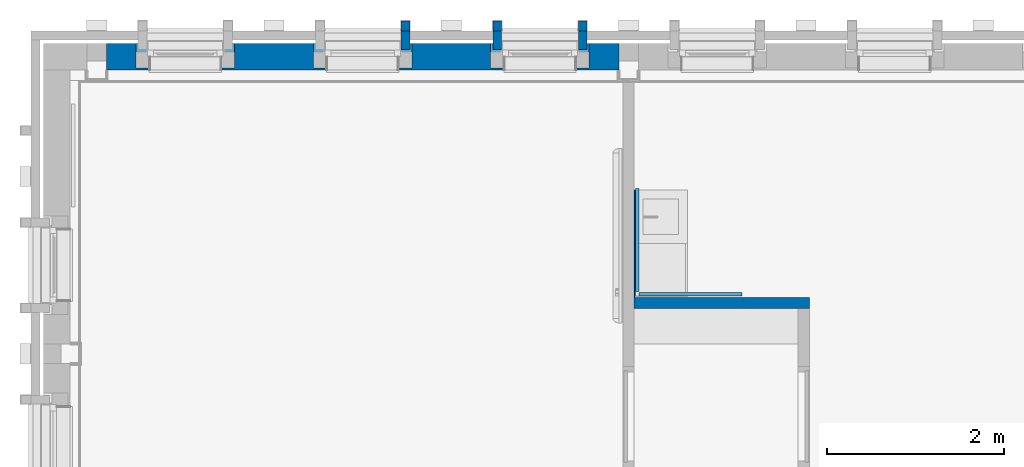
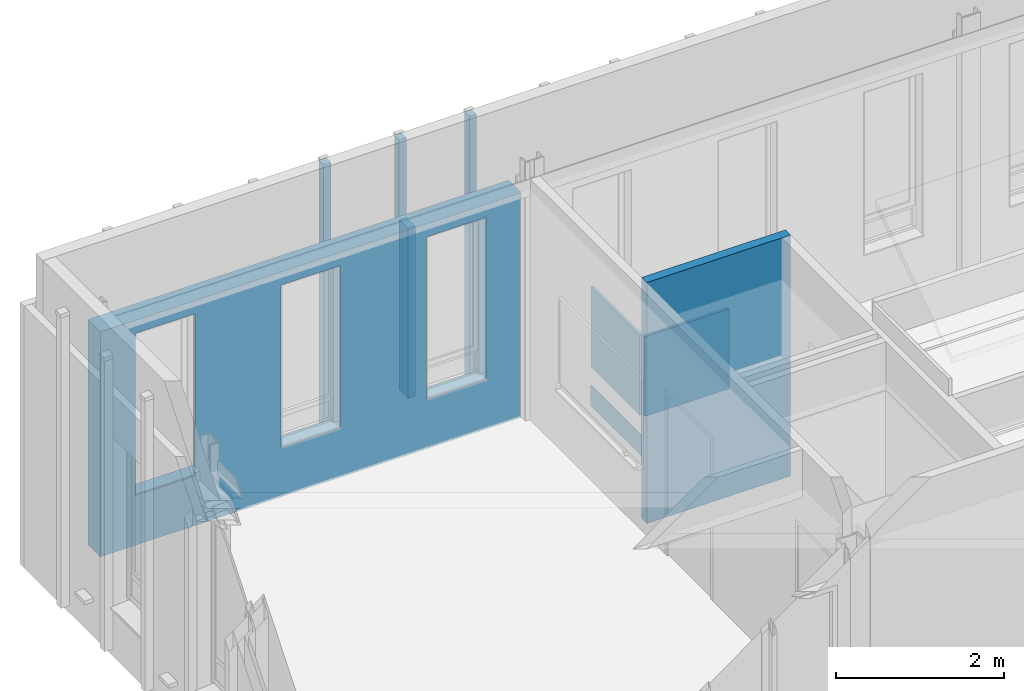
# One storey, part 57 of 118: 11 walls, 12 openings.
"""IFC2X3 building model written with IfcOpenShell, lengths in millimetres."""

from ifc_helpers import new_model, entity, si_unit, converted_unit, derived_unit, direction, frame, frame_2d, origin, place, context, subcontext, project, spatial, rectangle, extrude, faceted_brep, material, layer, layer_set, layer_usage, type_object, element, save


model = new_model("IFC2X3")

# Units and contexts
model_context = context("Model", 3, precision=0.01, world=origin(), true_north=direction((6.123031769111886e-17, 1.0)))
plan_context = context("Plan", 3, precision=0.01, world=origin(), true_north=direction((6.123031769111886e-17, 1.0)))
body_context = subcontext(model_context, "Body", "Model", "MODEL_VIEW")
ifc_project = project(units=[si_unit("LENGTHUNIT", "METRE", prefix="MILLI"), si_unit("AREAUNIT", "SQUARE_METRE"), si_unit("VOLUMEUNIT", "CUBIC_METRE"), converted_unit("PLANEANGLEUNIT", "DEGREE", entity("IfcRatioMeasure", 0.017453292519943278), si_unit("PLANEANGLEUNIT", "RADIAN"), dimensions=[0, 0, 0, 0, 0, 0, 0]), si_unit("MASSUNIT", "GRAM", prefix="KILO"), derived_unit("MASSDENSITYUNIT", [(si_unit("MASSUNIT", "GRAM", prefix="KILO"), 1), (si_unit("LENGTHUNIT", "METRE"), -3)]), derived_unit("IONCONCENTRATIONUNIT", [(si_unit("MASSUNIT", "GRAM", prefix="KILO"), 1), (si_unit("LENGTHUNIT", "METRE"), -3)]), derived_unit("MOMENTOFINERTIAUNIT", [(si_unit("LENGTHUNIT", "METRE"), 4)]), si_unit("TIMEUNIT", "SECOND"), si_unit("FREQUENCYUNIT", "HERTZ"), si_unit("THERMODYNAMICTEMPERATUREUNIT", "DEGREE_CELSIUS"), derived_unit("THERMALTRANSMITTANCEUNIT", [(si_unit("MASSUNIT", "GRAM", prefix="KILO"), 1), (si_unit("THERMODYNAMICTEMPERATUREUNIT", "KELVIN"), -1), (si_unit("TIMEUNIT", "SECOND"), -3)]), derived_unit("THERMALCONDUCTANCEUNIT", [(si_unit("MASSUNIT", "GRAM", prefix="KILO"), 1), (si_unit("THERMODYNAMICTEMPERATUREUNIT", "KELVIN"), -1), (si_unit("TIMEUNIT", "SECOND"), -3), (si_unit("LENGTHUNIT", "METRE"), 1)]), derived_unit("VOLUMETRICFLOWRATEUNIT", [(si_unit("LENGTHUNIT", "METRE"), 3), (si_unit("TIMEUNIT", "SECOND"), -1)]), derived_unit("MASSFLOWRATEUNIT", [(si_unit("MASSUNIT", "GRAM", prefix="KILO"), 1), (si_unit("TIMEUNIT", "SECOND"), -1)]), derived_unit("ROTATIONALFREQUENCYUNIT", [(si_unit("TIMEUNIT", "SECOND"), -1)]), si_unit("ELECTRICCURRENTUNIT", "AMPERE"), si_unit("ELECTRICVOLTAGEUNIT", "VOLT"), si_unit("POWERUNIT", "WATT"), si_unit("FORCEUNIT", "NEWTON", prefix="KILO"), si_unit("ILLUMINANCEUNIT", "LUX"), si_unit("LUMINOUSFLUXUNIT", "LUMEN"), si_unit("LUMINOUSINTENSITYUNIT", "CANDELA"), derived_unit("USERDEFINED", [(si_unit("MASSUNIT", "GRAM", prefix="KILO"), -1), (si_unit("LENGTHUNIT", "METRE"), -2), (si_unit("TIMEUNIT", "SECOND"), 3), (si_unit("LUMINOUSFLUXUNIT", "LUMEN"), 1)]), derived_unit("USERDEFINED", [(si_unit("MASSUNIT", "GRAM", prefix="KILO"), 1), (si_unit("TIMEUNIT", "SECOND"), -3), (si_unit("LENGTHUNIT", "METRE"), 3), (si_unit("ELECTRICCURRENTUNIT", "AMPERE"), -2)]), derived_unit("SOUNDPOWERUNIT", [(si_unit("MASSUNIT", "GRAM", prefix="KILO"), 1), (si_unit("TIMEUNIT", "SECOND"), -3), (si_unit("LENGTHUNIT", "METRE"), 2)]), derived_unit("SOUNDPRESSUREUNIT", [(si_unit("MASSUNIT", "GRAM", prefix="KILO"), 1), (si_unit("LENGTHUNIT", "METRE"), -1), (si_unit("TIMEUNIT", "SECOND"), -2)]), derived_unit("LINEARVELOCITYUNIT", [(si_unit("LENGTHUNIT", "METRE"), 1), (si_unit("TIMEUNIT", "SECOND"), -1)]), si_unit("PRESSUREUNIT", "PASCAL"), derived_unit("USERDEFINED", [(si_unit("MASSUNIT", "GRAM", prefix="KILO"), 1), (si_unit("LENGTHUNIT", "METRE"), -2), (si_unit("TIMEUNIT", "SECOND"), -2)]), derived_unit("LINEARFORCEUNIT", [(si_unit("MASSUNIT", "GRAM", prefix="KILO"), 1), (si_unit("TIMEUNIT", "SECOND"), -2)]), derived_unit("PLANARFORCEUNIT", [(si_unit("MASSUNIT", "GRAM", prefix="KILO"), 1), (si_unit("LENGTHUNIT", "METRE"), -1), (si_unit("TIMEUNIT", "SECOND"), -2)]), derived_unit("SPECIFICHEATCAPACITYUNIT", [(si_unit("THERMODYNAMICTEMPERATUREUNIT", "KELVIN"), -1), (si_unit("LENGTHUNIT", "METRE"), 2), (si_unit("TIMEUNIT", "SECOND"), -2)]), derived_unit("HEATINGVALUEUNIT", [(si_unit("LENGTHUNIT", "METRE"), 2), (si_unit("TIMEUNIT", "SECOND"), -2)]), derived_unit("VAPORPERMEABILITYUNIT", [(si_unit("LENGTHUNIT", "METRE"), -1), (si_unit("TIMEUNIT", "SECOND"), 1)]), derived_unit("DYNAMICVISCOSITYUNIT", [(si_unit("MASSUNIT", "GRAM", prefix="KILO"), 1), (si_unit("TIMEUNIT", "SECOND"), -1), (si_unit("LENGTHUNIT", "METRE"), -1)]), derived_unit("THERMALEXPANSIONCOEFFICIENTUNIT", [(si_unit("THERMODYNAMICTEMPERATUREUNIT", "KELVIN"), -1)]), derived_unit("MODULUSOFELASTICITYUNIT", [(si_unit("MASSUNIT", "GRAM", prefix="KILO"), 1), (si_unit("LENGTHUNIT", "METRE"), -1), (si_unit("TIMEUNIT", "SECOND"), -2)]), derived_unit("ISOTHERMALMOISTURECAPACITYUNIT", [(si_unit("LENGTHUNIT", "METRE"), 3), (si_unit("MASSUNIT", "GRAM", prefix="KILO"), -1)]), derived_unit("MOISTUREDIFFUSIVITYUNIT", [(si_unit("TIMEUNIT", "SECOND"), -1), (si_unit("LENGTHUNIT", "METRE"), 2)])], contexts=[model_context, plan_context])

# Site, building, storey
site_placement = place(None, origin())
site = spatial("IfcSite", under=ifc_project, at=site_placement, Name="Locatie", CompositionType="ELEMENT")
building_placement = place(site_placement, origin())
building = spatial("IfcBuilding", under=site, at=building_placement, Name="Bouwwerk", CompositionType="ELEMENT")
storey_placement = place(building_placement, frame((0.0, 0.0, 7800.0)))
storey = spatial("IfcBuildingStorey", under=building, at=storey_placement, Name="02 tweede verdieping", CompositionType="ELEMENT", Elevation=7800.000000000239)

# Wall, openings
ifc_material_1 = material(Name="n7_isolatie_glaswol")
ifc_layer_1 = layer(ifc_material_1, 30.0)
ifc_layer_2 = layer(ifc_material_1, 245.0)
ifc_material_2 = material(Name="i4_multiplex")
ifc_layer_3 = layer(ifc_material_2, 12.0)
ifc_material_3 = material(Name="f7_gipsvezel")
ifc_layer_4 = layer(ifc_material_3, 13.000000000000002)
ifc_layer_set_1 = layer_set([ifc_layer_1, ifc_layer_2, ifc_layer_3, ifc_layer_4], Name="Basic Wall:NLRS_22_WA_HSB bispouw 30-245-12-13 glaswol_gen_ISR")
ifc_layer_usage_1 = layer_usage(ifc_layer_set_1, "AXIS2", "NEGATIVE", 150.0)
wall_type_1 = type_object("IfcWallType", Name="Basic Wall:NLRS_22_WA_HSB bispouw 30-245-12-13 glaswol_gen_ISR", PredefinedType="STANDARD", material=ifc_layer_set_1)
wall_1_placement = place(storey_placement, frame((10410.0, 34550.0, -30.0)))
wall_1 = element("IfcWallStandardCase", 1, at=wall_1_placement, inside=storey, type_object=wall_type_1, material=ifc_layer_usage_1, Name="Basic Wall:NLRS_22_WA_HSB bispouw 30-245-12-13 glaswol_gen_ISR", ObjectType="Basic Wall:NLRS_22_WA_HSB bispouw 30-245-12-13 glaswol_gen_ISR", context=body_context, shape_type="SweptSolid", body=[
    extrude(rectangle(XDim=5779.9999999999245, YDim=300.0000000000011, at=frame_2d((2889.9999999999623, 0.0), x_axis=(-1.0, 0.0))), origin(), (0.0, 0.0, 1.0), 3266.0000000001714),
])
opening_1_placement = place(wall_1_placement, frame((10334.0, -325.0, 633.0)))
element("IfcOpeningElement", 2, at=opening_1_placement, cuts=wall_1, Name="Basic Wall:NLRS_22_WA_HSB bispouw 30-245-12-13 glaswol_gen_ISR", ObjectType="Opening", context=body_context, shape_type="Brep", body=[
    faceted_brep([(1088.0, 515.0, 2472.0), (1009.0, 515.0, 2472.0), (1009.0, 515.0, 42.0), (103.0, 515.0, 42.0), (103.0, 515.0, 2472.0), (24.0, 515.0, 2472.0), (24.0, 515.0, 0.0), (1088.0, 515.0, 0.0), (24.0, 615.0, 2472.0), (1088.0, 615.0, 2472.0), (1088.0, 615.0, 0.0), (24.0, 615.0, 0.0), (0.0, 200.0, 2594.0), (0.0, 200.0, 11.0), (1112.0, 200.0, 11.0), (1112.0, 200.0, 2594.0), (148.0, 200.0, 2443.0), (964.0, 200.0, 2443.0), (964.0, 200.0, 87.0), (148.0, 200.0, 87.0), (0.0, 475.0, 2594.0), (1112.0, 475.0, 2594.0), (1112.0, 475.0, 11.0), (0.0, 475.0, 11.0), (103.0, 475.0, 42.0), (1009.0, 475.0, 42.0), (1009.0, 475.0, 2508.0), (103.0, 475.0, 2508.0), (1009.0, 515.0, 2508.0), (103.0, 515.0, 2508.0), (148.0, 0.0, 2443.0), (148.0, 0.0, 87.0), (964.0, 0.0, 87.0), (964.0, 0.0, 2443.0)], [[[0, 1, 2, 3, 4, 5, 6, 7]], [[8, 9, 10, 11]], [[5, 8, 11, 6]], [[6, 11, 10, 7]], [[7, 10, 9, 0]], [[8, 5, 4, 1, 0, 9]], [[12, 13, 14, 15], [16, 17, 18, 19]], [[20, 21, 22, 23], [24, 25, 26, 27]], [[12, 20, 23, 13]], [[13, 23, 22, 14]], [[14, 22, 21, 15]], [[15, 21, 20, 12]], [[28, 1, 4, 29]], [[24, 27, 29, 4, 3]], [[3, 2, 25, 24]], [[2, 1, 28, 26, 25]], [[29, 27, 26, 28]], [[30, 31, 32, 33]], [[30, 16, 19, 31]], [[31, 19, 18, 32]], [[32, 18, 17, 33]], [[33, 17, 16, 30]]]),
])
opening_2_placement = place(wall_1_placement, frame((8334.0, -325.0, 633.0)))
element("IfcOpeningElement", 3, at=opening_2_placement, cuts=wall_1, Name="Basic Wall:NLRS_22_WA_HSB bispouw 30-245-12-13 glaswol_gen_ISR", ObjectType="Opening", context=body_context, shape_type="Brep", body=[
    faceted_brep([(1088.0, 515.0, 2472.0), (1009.0, 515.0, 2472.0), (1009.0, 515.0, 42.0), (103.0, 515.0, 42.0), (103.0, 515.0, 2472.0), (24.0, 515.0, 2472.0), (24.0, 515.0, 0.0), (1088.0, 515.0, 0.0), (24.0, 615.0, 2472.0), (1088.0, 615.0, 2472.0), (1088.0, 615.0, 0.0), (24.0, 615.0, 0.0), (0.0, 200.0, 2594.0), (0.0, 200.0, 11.0), (1112.0, 200.0, 11.0), (1112.0, 200.0, 2594.0), (148.0, 200.0, 2443.0), (964.0, 200.0, 2443.0), (964.0, 200.0, 87.0), (148.0, 200.0, 87.0), (0.0, 475.0, 2594.0), (1112.0, 475.0, 2594.0), (1112.0, 475.0, 11.0), (0.0, 475.0, 11.0), (103.0, 475.0, 42.0), (1009.0, 475.0, 42.0), (1009.0, 475.0, 2508.0), (103.0, 475.0, 2508.0), (1009.0, 515.0, 2508.0), (103.0, 515.0, 2508.0), (148.0, 0.0, 2443.0), (148.0, 0.0, 87.0), (964.0, 0.0, 87.0), (964.0, 0.0, 2443.0)], [[[0, 1, 2, 3, 4, 5, 6, 7]], [[8, 9, 10, 11]], [[5, 8, 11, 6]], [[6, 11, 10, 7]], [[7, 10, 9, 0]], [[8, 5, 4, 1, 0, 9]], [[12, 13, 14, 15], [16, 17, 18, 19]], [[20, 21, 22, 23], [24, 25, 26, 27]], [[12, 20, 23, 13]], [[13, 23, 22, 14]], [[14, 22, 21, 15]], [[15, 21, 20, 12]], [[28, 1, 4, 29]], [[24, 27, 29, 4, 3]], [[3, 2, 25, 24]], [[2, 1, 28, 26, 25]], [[29, 27, 26, 28]], [[30, 31, 32, 33]], [[30, 16, 19, 31]], [[31, 19, 18, 32]], [[32, 18, 17, 33]], [[33, 17, 16, 30]]]),
])
opening_3_placement = place(wall_1_placement, frame((6334.0, -325.0, 633.0)))
element("IfcOpeningElement", 4, at=opening_3_placement, cuts=wall_1, Name="Basic Wall:NLRS_22_WA_HSB bispouw 30-245-12-13 glaswol_gen_ISR", ObjectType="Opening", context=body_context, shape_type="Brep", body=[
    faceted_brep([(1088.0, 515.0, 2472.0), (1009.0, 515.0, 2472.0), (1009.0, 515.0, 42.0), (103.0, 515.0, 42.0), (103.0, 515.0, 2472.0), (24.0, 515.0, 2472.0), (24.0, 515.0, 0.0), (1088.0, 515.0, 0.0), (24.0, 615.0, 2472.0), (1088.0, 615.0, 2472.0), (1088.0, 615.0, 0.0), (24.0, 615.0, 0.0), (0.0, 200.0, 2594.0), (0.0, 200.0, 11.0), (1112.0, 200.0, 11.0), (1112.0, 200.0, 2594.0), (148.0, 200.0, 2443.0), (964.0, 200.0, 2443.0), (964.0, 200.0, 87.0), (148.0, 200.0, 87.0), (0.0, 475.0, 2594.0), (1112.0, 475.0, 2594.0), (1112.0, 475.0, 11.0), (0.0, 475.0, 11.0), (103.0, 475.0, 42.0), (1009.0, 475.0, 42.0), (1009.0, 475.0, 2508.0), (103.0, 475.0, 2508.0), (1009.0, 515.0, 2508.0), (103.0, 515.0, 2508.0), (148.0, 0.0, 2443.0), (148.0, 0.0, 87.0), (964.0, 0.0, 87.0), (964.0, 0.0, 2443.0)], [[[0, 1, 2, 3, 4, 5, 6, 7]], [[8, 9, 10, 11]], [[5, 8, 11, 6]], [[6, 11, 10, 7]], [[7, 10, 9, 0]], [[8, 5, 4, 1, 0, 9]], [[12, 13, 14, 15], [16, 17, 18, 19]], [[20, 21, 22, 23], [24, 25, 26, 27]], [[12, 20, 23, 13]], [[13, 23, 22, 14]], [[14, 22, 21, 15]], [[15, 21, 20, 12]], [[28, 1, 4, 29]], [[24, 27, 29, 4, 3]], [[3, 2, 25, 24]], [[2, 1, 28, 26, 25]], [[29, 27, 26, 28]], [[30, 31, 32, 33]], [[30, 16, 19, 31]], [[31, 19, 18, 32]], [[32, 18, 17, 33]], [[33, 17, 16, 30]]]),
])
opening_4_placement = place(wall_1_placement, frame((12334.0, -325.0, 633.0)))
element("IfcOpeningElement", 5, at=opening_4_placement, cuts=wall_1, Name="Basic Wall:NLRS_22_WA_HSB bispouw 30-245-12-13 glaswol_gen_ISR", ObjectType="Opening", context=body_context, shape_type="Brep", body=[
    faceted_brep([(1088.0, 515.0, 2472.0), (1009.0, 515.0, 2472.0), (1009.0, 515.0, 42.0), (103.0, 515.0, 42.0), (103.0, 515.0, 2472.0), (24.0, 515.0, 2472.0), (24.0, 515.0, 0.0), (1088.0, 515.0, 0.0), (24.0, 615.0, 2472.0), (1088.0, 615.0, 2472.0), (1088.0, 615.0, 0.0), (24.0, 615.0, 0.0), (0.0, 200.0, 2594.0), (0.0, 200.0, 11.0), (1112.0, 200.0, 11.0), (1112.0, 200.0, 2594.0), (148.0, 200.0, 2443.0), (964.0, 200.0, 2443.0), (964.0, 200.0, 87.0), (148.0, 200.0, 87.0), (0.0, 475.0, 2594.0), (1112.0, 475.0, 2594.0), (1112.0, 475.0, 11.0), (0.0, 475.0, 11.0), (103.0, 475.0, 42.0), (1009.0, 475.0, 42.0), (1009.0, 475.0, 2508.0), (103.0, 475.0, 2508.0), (1009.0, 515.0, 2508.0), (103.0, 515.0, 2508.0), (148.0, 0.0, 2443.0), (148.0, 0.0, 87.0), (964.0, 0.0, 87.0), (964.0, 0.0, 2443.0)], [[[0, 1, 2, 3, 4, 5, 6, 7]], [[8, 9, 10, 11]], [[5, 8, 11, 6]], [[6, 11, 10, 7]], [[7, 10, 9, 0]], [[8, 5, 4, 1, 0, 9]], [[12, 13, 14, 15], [16, 17, 18, 19]], [[20, 21, 22, 23], [24, 25, 26, 27]], [[12, 20, 23, 13]], [[13, 23, 22, 14]], [[14, 22, 21, 15]], [[15, 21, 20, 12]], [[28, 1, 4, 29]], [[24, 27, 29, 4, 3]], [[3, 2, 25, 24]], [[2, 1, 28, 26, 25]], [[29, 27, 26, 28]], [[30, 31, 32, 33]], [[30, 16, 19, 31]], [[31, 19, 18, 32]], [[32, 18, 17, 33]], [[33, 17, 16, 30]]]),
])
opening_5_placement = place(wall_1_placement, frame((16334.0, -325.0, 633.0)))
element("IfcOpeningElement", 6, at=opening_5_placement, cuts=wall_1, Name="Basic Wall:NLRS_22_WA_HSB bispouw 30-245-12-13 glaswol_gen_ISR", ObjectType="Opening", context=body_context, shape_type="Brep", body=[
    faceted_brep([(1088.0, 515.0, 2472.0), (1009.0, 515.0, 2472.0), (1009.0, 515.0, 42.0), (103.0, 515.0, 42.0), (103.0, 515.0, 2472.0), (24.0, 515.0, 2472.0), (24.0, 515.0, 0.0), (1088.0, 515.0, 0.0), (24.0, 615.0, 2472.0), (1088.0, 615.0, 2472.0), (1088.0, 615.0, 0.0), (24.0, 615.0, 0.0), (0.0, 200.0, 2594.0), (0.0, 200.0, 11.0), (1112.0, 200.0, 11.0), (1112.0, 200.0, 2594.0), (148.0, 200.0, 2443.0), (964.0, 200.0, 2443.0), (964.0, 200.0, 87.0), (148.0, 200.0, 87.0), (0.0, 475.0, 2594.0), (1112.0, 475.0, 2594.0), (1112.0, 475.0, 11.0), (0.0, 475.0, 11.0), (103.0, 475.0, 42.0), (1009.0, 475.0, 42.0), (1009.0, 475.0, 2508.0), (103.0, 475.0, 2508.0), (1009.0, 515.0, 2508.0), (103.0, 515.0, 2508.0), (148.0, 0.0, 2443.0), (148.0, 0.0, 87.0), (964.0, 0.0, 87.0), (964.0, 0.0, 2443.0)], [[[0, 1, 2, 3, 4, 5, 6, 7]], [[8, 9, 10, 11]], [[5, 8, 11, 6]], [[6, 11, 10, 7]], [[7, 10, 9, 0]], [[8, 5, 4, 1, 0, 9]], [[12, 13, 14, 15], [16, 17, 18, 19]], [[20, 21, 22, 23], [24, 25, 26, 27]], [[12, 20, 23, 13]], [[13, 23, 22, 14]], [[14, 22, 21, 15]], [[15, 21, 20, 12]], [[28, 1, 4, 29]], [[24, 27, 29, 4, 3]], [[3, 2, 25, 24]], [[2, 1, 28, 26, 25]], [[29, 27, 26, 28]], [[30, 31, 32, 33]], [[30, 16, 19, 31]], [[31, 19, 18, 32]], [[32, 18, 17, 33]], [[33, 17, 16, 30]]]),
])
opening_6_placement = place(wall_1_placement, frame((14334.0, -325.0, 633.0)))
element("IfcOpeningElement", 7, at=opening_6_placement, cuts=wall_1, Name="Basic Wall:NLRS_22_WA_HSB bispouw 30-245-12-13 glaswol_gen_ISR", ObjectType="Opening", context=body_context, shape_type="Brep", body=[
    faceted_brep([(1088.0, 515.0, 2472.0), (1009.0, 515.0, 2472.0), (1009.0, 515.0, 42.0), (103.0, 515.0, 42.0), (103.0, 515.0, 2472.0), (24.0, 515.0, 2472.0), (24.0, 515.0, 0.0), (1088.0, 515.0, 0.0), (24.0, 615.0, 2472.0), (1088.0, 615.0, 2472.0), (1088.0, 615.0, 0.0), (24.0, 615.0, 0.0), (0.0, 200.0, 2594.0), (0.0, 200.0, 11.0), (1112.0, 200.0, 11.0), (1112.0, 200.0, 2594.0), (148.0, 200.0, 2443.0), (964.0, 200.0, 2443.0), (964.0, 200.0, 87.0), (148.0, 200.0, 87.0), (0.0, 475.0, 2594.0), (1112.0, 475.0, 2594.0), (1112.0, 475.0, 11.0), (0.0, 475.0, 11.0), (103.0, 475.0, 42.0), (1009.0, 475.0, 42.0), (1009.0, 475.0, 2508.0), (103.0, 475.0, 2508.0), (1009.0, 515.0, 2508.0), (103.0, 515.0, 2508.0), (148.0, 0.0, 2443.0), (148.0, 0.0, 87.0), (964.0, 0.0, 87.0), (964.0, 0.0, 2443.0)], [[[0, 1, 2, 3, 4, 5, 6, 7]], [[8, 9, 10, 11]], [[5, 8, 11, 6]], [[6, 11, 10, 7]], [[7, 10, 9, 0]], [[8, 5, 4, 1, 0, 9]], [[12, 13, 14, 15], [16, 17, 18, 19]], [[20, 21, 22, 23], [24, 25, 26, 27]], [[12, 20, 23, 13]], [[13, 23, 22, 14]], [[14, 22, 21, 15]], [[15, 21, 20, 12]], [[28, 1, 4, 29]], [[24, 27, 29, 4, 3]], [[3, 2, 25, 24]], [[2, 1, 28, 26, 25]], [[29, 27, 26, 28]], [[30, 31, 32, 33]], [[30, 16, 19, 31]], [[31, 19, 18, 32]], [[32, 18, 17, 33]], [[33, 17, 16, 30]]]),
])
opening_7_placement = place(wall_1_placement, frame((22334.0, -325.0, 633.0)))
element("IfcOpeningElement", 8, at=opening_7_placement, cuts=wall_1, Name="Basic Wall:NLRS_22_WA_HSB bispouw 30-245-12-13 glaswol_gen_ISR", ObjectType="Opening", context=body_context, shape_type="Brep", body=[
    faceted_brep([(1088.0, 515.0, 2472.0), (1009.0, 515.0, 2472.0), (1009.0, 515.0, 42.0), (103.0, 515.0, 42.0), (103.0, 515.0, 2472.0), (24.0, 515.0, 2472.0), (24.0, 515.0, 0.0), (1088.0, 515.0, 0.0), (24.0, 615.0, 2472.0), (1088.0, 615.0, 2472.0), (1088.0, 615.0, 0.0), (24.0, 615.0, 0.0), (0.0, 200.0, 2594.0), (0.0, 200.0, 11.0), (1112.0, 200.0, 11.0), (1112.0, 200.0, 2594.0), (148.0, 200.0, 2443.0), (964.0, 200.0, 2443.0), (964.0, 200.0, 87.0), (148.0, 200.0, 87.0), (0.0, 475.0, 2594.0), (1112.0, 475.0, 2594.0), (1112.0, 475.0, 11.0), (0.0, 475.0, 11.0), (103.0, 475.0, 42.0), (1009.0, 475.0, 42.0), (1009.0, 475.0, 2508.0), (103.0, 475.0, 2508.0), (1009.0, 515.0, 2508.0), (103.0, 515.0, 2508.0), (148.0, 0.0, 2443.0), (148.0, 0.0, 87.0), (964.0, 0.0, 87.0), (964.0, 0.0, 2443.0)], [[[0, 1, 2, 3, 4, 5, 6, 7]], [[8, 9, 10, 11]], [[5, 8, 11, 6]], [[6, 11, 10, 7]], [[7, 10, 9, 0]], [[8, 5, 4, 1, 0, 9]], [[12, 13, 14, 15], [16, 17, 18, 19]], [[20, 21, 22, 23], [24, 25, 26, 27]], [[12, 20, 23, 13]], [[13, 23, 22, 14]], [[14, 22, 21, 15]], [[15, 21, 20, 12]], [[28, 1, 4, 29]], [[24, 27, 29, 4, 3]], [[3, 2, 25, 24]], [[2, 1, 28, 26, 25]], [[29, 27, 26, 28]], [[30, 31, 32, 33]], [[30, 16, 19, 31]], [[31, 19, 18, 32]], [[32, 18, 17, 33]], [[33, 17, 16, 30]]]),
])
opening_8_placement = place(wall_1_placement, frame((20334.0, -325.0, 633.0)))
element("IfcOpeningElement", 9, at=opening_8_placement, cuts=wall_1, Name="Basic Wall:NLRS_22_WA_HSB bispouw 30-245-12-13 glaswol_gen_ISR", ObjectType="Opening", context=body_context, shape_type="Brep", body=[
    faceted_brep([(1088.0, 515.0, 2472.0), (1009.0, 515.0, 2472.0), (1009.0, 515.0, 42.0), (103.0, 515.0, 42.0), (103.0, 515.0, 2472.0), (24.0, 515.0, 2472.0), (24.0, 515.0, 0.0), (1088.0, 515.0, 0.0), (24.0, 615.0, 2472.0), (1088.0, 615.0, 2472.0), (1088.0, 615.0, 0.0), (24.0, 615.0, 0.0), (0.0, 200.0, 2594.0), (0.0, 200.0, 11.0), (1112.0, 200.0, 11.0), (1112.0, 200.0, 2594.0), (148.0, 200.0, 2443.0), (964.0, 200.0, 2443.0), (964.0, 200.0, 87.0), (148.0, 200.0, 87.0), (0.0, 475.0, 2594.0), (1112.0, 475.0, 2594.0), (1112.0, 475.0, 11.0), (0.0, 475.0, 11.0), (103.0, 475.0, 42.0), (1009.0, 475.0, 42.0), (1009.0, 475.0, 2508.0), (103.0, 475.0, 2508.0), (1009.0, 515.0, 2508.0), (103.0, 515.0, 2508.0), (148.0, 0.0, 2443.0), (148.0, 0.0, 87.0), (964.0, 0.0, 87.0), (964.0, 0.0, 2443.0)], [[[0, 1, 2, 3, 4, 5, 6, 7]], [[8, 9, 10, 11]], [[5, 8, 11, 6]], [[6, 11, 10, 7]], [[7, 10, 9, 0]], [[8, 5, 4, 1, 0, 9]], [[12, 13, 14, 15], [16, 17, 18, 19]], [[20, 21, 22, 23], [24, 25, 26, 27]], [[12, 20, 23, 13]], [[13, 23, 22, 14]], [[14, 22, 21, 15]], [[15, 21, 20, 12]], [[28, 1, 4, 29]], [[24, 27, 29, 4, 3]], [[3, 2, 25, 24]], [[2, 1, 28, 26, 25]], [[29, 27, 26, 28]], [[30, 31, 32, 33]], [[30, 16, 19, 31]], [[31, 19, 18, 32]], [[32, 18, 17, 33]], [[33, 17, 16, 30]]]),
])
opening_9_placement = place(wall_1_placement, frame((18334.0, -325.0, 633.0)))
element("IfcOpeningElement", 10, at=opening_9_placement, cuts=wall_1, Name="Basic Wall:NLRS_22_WA_HSB bispouw 30-245-12-13 glaswol_gen_ISR", ObjectType="Opening", context=body_context, shape_type="Brep", body=[
    faceted_brep([(1088.0, 515.0, 2472.0), (1009.0, 515.0, 2472.0), (1009.0, 515.0, 42.0), (103.0, 515.0, 42.0), (103.0, 515.0, 2472.0), (24.0, 515.0, 2472.0), (24.0, 515.0, 0.0), (1088.0, 515.0, 0.0), (24.0, 615.0, 2472.0), (1088.0, 615.0, 2472.0), (1088.0, 615.0, 0.0), (24.0, 615.0, 0.0), (0.0, 200.0, 2594.0), (0.0, 200.0, 11.0), (1112.0, 200.0, 11.0), (1112.0, 200.0, 2594.0), (148.0, 200.0, 2443.0), (964.0, 200.0, 2443.0), (964.0, 200.0, 87.0), (148.0, 200.0, 87.0), (0.0, 475.0, 2594.0), (1112.0, 475.0, 2594.0), (1112.0, 475.0, 11.0), (0.0, 475.0, 11.0), (103.0, 475.0, 42.0), (1009.0, 475.0, 42.0), (1009.0, 475.0, 2508.0), (103.0, 475.0, 2508.0), (1009.0, 515.0, 2508.0), (103.0, 515.0, 2508.0), (148.0, 0.0, 2443.0), (148.0, 0.0, 87.0), (964.0, 0.0, 87.0), (964.0, 0.0, 2443.0)], [[[0, 1, 2, 3, 4, 5, 6, 7]], [[8, 9, 10, 11]], [[5, 8, 11, 6]], [[6, 11, 10, 7]], [[7, 10, 9, 0]], [[8, 5, 4, 1, 0, 9]], [[12, 13, 14, 15], [16, 17, 18, 19]], [[20, 21, 22, 23], [24, 25, 26, 27]], [[12, 20, 23, 13]], [[13, 23, 22, 14]], [[14, 22, 21, 15]], [[15, 21, 20, 12]], [[28, 1, 4, 29]], [[24, 27, 29, 4, 3]], [[3, 2, 25, 24]], [[2, 1, 28, 26, 25]], [[29, 27, 26, 28]], [[30, 31, 32, 33]], [[30, 16, 19, 31]], [[31, 19, 18, 32]], [[32, 18, 17, 33]], [[33, 17, 16, 30]]]),
])
opening_10_placement = place(wall_1_placement, frame((4334.0, -325.0, 633.0)))
element("IfcOpeningElement", 11, at=opening_10_placement, cuts=wall_1, Name="Basic Wall:NLRS_22_WA_HSB bispouw 30-245-12-13 glaswol_gen_ISR", ObjectType="Opening", context=body_context, shape_type="Brep", body=[
    faceted_brep([(1088.0, 515.0, 2472.0), (1009.0, 515.0, 2472.0), (1009.0, 515.0, 42.0), (103.0, 515.0, 42.0), (103.0, 515.0, 2472.0), (24.0, 515.0, 2472.0), (24.0, 515.0, 0.0), (1088.0, 515.0, 0.0), (24.0, 615.0, 2472.0), (1088.0, 615.0, 2472.0), (1088.0, 615.0, 0.0), (24.0, 615.0, 0.0), (0.0, 200.0, 2594.0), (0.0, 200.0, 11.0), (1112.0, 200.0, 11.0), (1112.0, 200.0, 2594.0), (148.0, 200.0, 2443.0), (964.0, 200.0, 2443.0), (964.0, 200.0, 87.0), (148.0, 200.0, 87.0), (0.0, 475.0, 2594.0), (1112.0, 475.0, 2594.0), (1112.0, 475.0, 11.0), (0.0, 475.0, 11.0), (103.0, 475.0, 42.0), (1009.0, 475.0, 42.0), (1009.0, 475.0, 2508.0), (103.0, 475.0, 2508.0), (1009.0, 515.0, 2508.0), (103.0, 515.0, 2508.0), (148.0, 0.0, 2443.0), (148.0, 0.0, 87.0), (964.0, 0.0, 87.0), (964.0, 0.0, 2443.0)], [[[0, 1, 2, 3, 4, 5, 6, 7]], [[8, 9, 10, 11]], [[5, 8, 11, 6]], [[6, 11, 10, 7]], [[7, 10, 9, 0]], [[8, 5, 4, 1, 0, 9]], [[12, 13, 14, 15], [16, 17, 18, 19]], [[20, 21, 22, 23], [24, 25, 26, 27]], [[12, 20, 23, 13]], [[13, 23, 22, 14]], [[14, 22, 21, 15]], [[15, 21, 20, 12]], [[28, 1, 4, 29]], [[24, 27, 29, 4, 3]], [[3, 2, 25, 24]], [[2, 1, 28, 26, 25]], [[29, 27, 26, 28]], [[30, 31, 32, 33]], [[30, 16, 19, 31]], [[31, 19, 18, 32]], [[32, 18, 17, 33]], [[33, 17, 16, 30]]]),
])
opening_11_placement = place(wall_1_placement, frame((2334.0, -325.0, 633.0)))
element("IfcOpeningElement", 12, at=opening_11_placement, cuts=wall_1, Name="Basic Wall:NLRS_22_WA_HSB bispouw 30-245-12-13 glaswol_gen_ISR", ObjectType="Opening", context=body_context, shape_type="Brep", body=[
    faceted_brep([(1088.0, 515.0, 2472.0), (1009.0, 515.0, 2472.0), (1009.0, 515.0, 42.0), (103.0, 515.0, 42.0), (103.0, 515.0, 2472.0), (24.0, 515.0, 2472.0), (24.0, 515.0, 0.0), (1088.0, 515.0, 0.0), (24.0, 615.0, 2472.0), (1088.0, 615.0, 2472.0), (1088.0, 615.0, 0.0), (24.0, 615.0, 0.0), (0.0, 200.0, 2594.0), (0.0, 200.0, 11.0), (1112.0, 200.0, 11.0), (1112.0, 200.0, 2594.0), (148.0, 200.0, 2443.0), (964.0, 200.0, 2443.0), (964.0, 200.0, 87.0), (148.0, 200.0, 87.0), (0.0, 475.0, 2594.0), (1112.0, 475.0, 2594.0), (1112.0, 475.0, 11.0), (0.0, 475.0, 11.0), (103.0, 475.0, 42.0), (1009.0, 475.0, 42.0), (1009.0, 475.0, 2508.0), (103.0, 475.0, 2508.0), (1009.0, 515.0, 2508.0), (103.0, 515.0, 2508.0), (148.0, 0.0, 2443.0), (148.0, 0.0, 87.0), (964.0, 0.0, 87.0), (964.0, 0.0, 2443.0)], [[[0, 1, 2, 3, 4, 5, 6, 7]], [[8, 9, 10, 11]], [[5, 8, 11, 6]], [[6, 11, 10, 7]], [[7, 10, 9, 0]], [[8, 5, 4, 1, 0, 9]], [[12, 13, 14, 15], [16, 17, 18, 19]], [[20, 21, 22, 23], [24, 25, 26, 27]], [[12, 20, 23, 13]], [[13, 23, 22, 14]], [[14, 22, 21, 15]], [[15, 21, 20, 12]], [[28, 1, 4, 29]], [[24, 27, 29, 4, 3]], [[3, 2, 25, 24]], [[2, 1, 28, 26, 25]], [[29, 27, 26, 28]], [[30, 31, 32, 33]], [[30, 16, 19, 31]], [[31, 19, 18, 32]], [[32, 18, 17, 33]], [[33, 17, 16, 30]]]),
])
opening_12_placement = place(wall_1_placement, frame((334.0, -325.0, 633.0)))
element("IfcOpeningElement", 13, at=opening_12_placement, cuts=wall_1, Name="Basic Wall:NLRS_22_WA_HSB bispouw 30-245-12-13 glaswol_gen_ISR", ObjectType="Opening", context=body_context, shape_type="Brep", body=[
    faceted_brep([(1088.0, 515.0, 2472.0), (1009.0, 515.0, 2472.0), (1009.0, 515.0, 42.0), (103.0, 515.0, 42.0), (103.0, 515.0, 2472.0), (24.0, 515.0, 2472.0), (24.0, 515.0, 0.0), (1088.0, 515.0, 0.0), (24.0, 615.0, 2472.0), (1088.0, 615.0, 2472.0), (1088.0, 615.0, 0.0), (24.0, 615.0, 0.0), (0.0, 200.0, 2594.0), (0.0, 200.0, 11.0), (1112.0, 200.0, 11.0), (1112.0, 200.0, 2594.0), (148.0, 200.0, 2443.0), (964.0, 200.0, 2443.0), (964.0, 200.0, 87.0), (148.0, 200.0, 87.0), (0.0, 475.0, 2594.0), (1112.0, 475.0, 2594.0), (1112.0, 475.0, 11.0), (0.0, 475.0, 11.0), (103.0, 475.0, 42.0), (1009.0, 475.0, 42.0), (1009.0, 475.0, 2508.0), (103.0, 475.0, 2508.0), (1009.0, 515.0, 2508.0), (103.0, 515.0, 2508.0), (148.0, 0.0, 2443.0), (148.0, 0.0, 87.0), (964.0, 0.0, 87.0), (964.0, 0.0, 2443.0)], [[[0, 1, 2, 3, 4, 5, 6, 7]], [[8, 9, 10, 11]], [[5, 8, 11, 6]], [[6, 11, 10, 7]], [[7, 10, 9, 0]], [[8, 5, 4, 1, 0, 9]], [[12, 13, 14, 15], [16, 17, 18, 19]], [[20, 21, 22, 23], [24, 25, 26, 27]], [[12, 20, 23, 13]], [[13, 23, 22, 14]], [[14, 22, 21, 15]], [[15, 21, 20, 12]], [[28, 1, 4, 29]], [[24, 27, 29, 4, 3]], [[3, 2, 25, 24]], [[2, 1, 28, 26, 25]], [[29, 27, 26, 28]], [[30, 31, 32, 33]], [[30, 16, 19, 31]], [[31, 19, 18, 32]], [[32, 18, 17, 33]], [[33, 17, 16, 30]]]),
])

# Walls
ifc_material_4 = material(Name="g2_metselwerk_geel licht")
ifc_layer_5 = layer(ifc_material_4, 100.0)
ifc_layer_set_2 = layer_set([ifc_layer_5], Name="Basic Wall:21_WA_metselwerk_licht_100_gen_bdg")
ifc_layer_usage_2 = layer_usage(ifc_layer_set_2, "AXIS2", "NEGATIVE", 50.0)
wall_type_2 = type_object("IfcWallType", Name="Basic Wall:21_WA_metselwerk_licht_100_gen_bdg", PredefinedType="STANDARD", material=ifc_layer_set_2)
wall_2_placement = place(storey_placement, frame((15782.0, 34630.0, 603.0), z_axis=(0.0, 0.0, 1.0), x_axis=(0.0, 1.0, 0.0)))
element("IfcWallStandardCase", 14, at=wall_2_placement, inside=storey, type_object=wall_type_2, material=ifc_layer_usage_2, Name="Basic Wall:21_WA_metselwerk_licht_100_gen_bdg", ObjectType="Basic Wall:21_WA_metselwerk_licht_100_gen_bdg", context=body_context, shape_type="SweptSolid", body=[
    extrude(rectangle(XDim=210.00000000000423, YDim=99.99999999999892, at=frame_2d((105.00000000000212, 1.4210854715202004e-13), x_axis=(-1.0, 0.0))), origin(), (0.0, 0.0, 1.0), 2471.999999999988),
])
wall_3_placement = place(storey_placement, frame((15782.0, 34840.0, 0.0), z_axis=(0.0, 0.0, 1.0), x_axis=(0.0, 1.0, 0.0)))
element("IfcWallStandardCase", 15, at=wall_3_placement, inside=storey, type_object=wall_type_2, material=ifc_layer_usage_2, Name="Basic Wall:21_WA_metselwerk_licht_100_gen_bdg", ObjectType="Basic Wall:21_WA_metselwerk_licht_100_gen_bdg", context=body_context, shape_type="SweptSolid", body=[
    extrude(rectangle(XDim=114.99999999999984, YDim=99.99999999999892, at=frame_2d((57.49999999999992, 6.608047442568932e-13), x_axis=(-1.0, 0.0))), origin(), (0.0, 0.0, 1.0), 4232.000000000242),
])
ifc_layer_usage_3 = layer_usage(ifc_layer_set_2, "AXIS2", "POSITIVE", -50.0)
wall_4_placement = place(storey_placement, frame((14818.0, 34630.0, 603.0), z_axis=(0.0, 0.0, 1.0), x_axis=(0.0, 1.0, 0.0)))
element("IfcWallStandardCase", 16, at=wall_4_placement, inside=storey, type_object=wall_type_2, material=ifc_layer_usage_3, Name="Basic Wall:21_WA_metselwerk_licht_100_gen_bdg", ObjectType="Basic Wall:21_WA_metselwerk_licht_100_gen_bdg", context=body_context, shape_type="SweptSolid", body=[
    extrude(rectangle(XDim=210.00000000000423, YDim=99.99999999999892, at=frame_2d((105.00000000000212, 5.435651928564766e-13), x_axis=(-1.0, 0.0))), origin(), (0.0, 0.0, 1.0), 2471.999999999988),
])
wall_5_placement = place(storey_placement, frame((14818.0, 34840.0, 0.0), z_axis=(0.0, 0.0, 1.0), x_axis=(0.0, 1.0, 0.0)))
element("IfcWallStandardCase", 17, at=wall_5_placement, inside=storey, type_object=wall_type_2, material=ifc_layer_usage_3, Name="Basic Wall:21_WA_metselwerk_licht_100_gen_bdg", ObjectType="Basic Wall:21_WA_metselwerk_licht_100_gen_bdg", context=body_context, shape_type="SweptSolid", body=[
    extrude(rectangle(XDim=114.99999999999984, YDim=99.99999999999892, at=frame_2d((57.49999999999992, 6.608047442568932e-13), x_axis=(-1.0, 0.0))), origin(), (0.0, 0.0, 1.0), 4231.99999999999),
])
wall_6_placement = place(storey_placement, frame((13782.0, 34630.0, 603.0), z_axis=(0.0, 0.0, 1.0), x_axis=(0.0, 1.0, 0.0)))
element("IfcWallStandardCase", 18, at=wall_6_placement, inside=storey, type_object=wall_type_2, material=ifc_layer_usage_2, Name="Basic Wall:21_WA_metselwerk_licht_100_gen_bdg", ObjectType="Basic Wall:21_WA_metselwerk_licht_100_gen_bdg", context=body_context, shape_type="SweptSolid", body=[
    extrude(rectangle(XDim=210.00000000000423, YDim=99.99999999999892, at=frame_2d((105.00000000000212, 1.4210854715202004e-13), x_axis=(-1.0, 0.0))), origin(), (0.0, 0.0, 1.0), 2471.999999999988),
])
wall_7_placement = place(storey_placement, frame((13782.0, 34840.0, 0.0), z_axis=(0.0, 0.0, 1.0), x_axis=(0.0, 1.0, 0.0)))
element("IfcWallStandardCase", 19, at=wall_7_placement, inside=storey, type_object=wall_type_2, material=ifc_layer_usage_2, Name="Basic Wall:21_WA_metselwerk_licht_100_gen_bdg", ObjectType="Basic Wall:21_WA_metselwerk_licht_100_gen_bdg", context=body_context, shape_type="SweptSolid", body=[
    extrude(rectangle(XDim=114.99999999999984, YDim=99.99999999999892, at=frame_2d((57.49999999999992, 6.608047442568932e-13), x_axis=(-1.0, 0.0))), origin(), (0.0, 0.0, 1.0), 4232.000000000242),
])
ifc_layer_6 = layer(ifc_material_3, 12.5)
ifc_material_5 = material(Name="f7_gips")
ifc_layer_7 = layer(ifc_material_5, 12.5)
ifc_layer_8 = layer(ifc_material_1, 75.0)
ifc_layer_9 = layer(ifc_material_5, 12.5)
ifc_layer_10 = layer(ifc_material_3, 12.5)
ifc_layer_set_3 = layer_set([ifc_layer_6, ifc_layer_7, ifc_layer_8, ifc_layer_9, ifc_layer_10], Name="Basic Wall: 25-75-25 _gen_bdg")
ifc_layer_usage_4 = layer_usage(ifc_layer_set_3, "AXIS2", "NEGATIVE", 62.50000000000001)
wall_type_3 = type_object("IfcWallType", Name="Basic Wall: 25-75-25 _gen_bdg", PredefinedType="STANDARD", material=ifc_layer_set_3)
wall_8_placement = place(storey_placement, frame((16362.50000000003, 31772.499948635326, 0.0)))
element("IfcWallStandardCase", 20, at=wall_8_placement, inside=storey, type_object=wall_type_3, material=ifc_layer_usage_4, Name="Basic Wall: 25-75-25 _gen_bdg", ObjectType="Basic Wall: 25-75-25 _gen_bdg", context=body_context, shape_type="SweptSolid", body=[
    extrude(rectangle(XDim=1974.9999999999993, YDim=124.99999999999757, at=frame_2d((987.4999999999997, -2.4868995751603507e-14), x_axis=(-1.0, 0.0))), origin(), (0.0, 0.0, 1.0), 3500.0000000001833),
])
ifc_layer_11 = layer(ifc_material_5, 12.0)
ifc_layer_set_4 = layer_set([ifc_layer_11], Name="Basic Wall:NLRS_41_WA_beplating 12_gen_ISR")
ifc_layer_usage_5 = layer_usage(ifc_layer_set_4, "AXIS2", "NEGATIVE", 6.0)
wall_type_4 = type_object("IfcWallType", Name="Basic Wall:NLRS_41_WA_beplating 12_gen_ISR", PredefinedType="STANDARD", material=ifc_layer_set_4)
wall_9_placement = place(storey_placement, frame((16368.499952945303, 33045.0, 900.0), z_axis=(0.0, 0.0, 1.0), x_axis=(0.0, -1.0, 0.0)))
element("IfcWallStandardCase", 21, at=wall_9_placement, inside=storey, type_object=wall_type_4, material=ifc_layer_usage_5, Name="Basic Wall:NLRS_41_WA_beplating 12_gen_ISR", ObjectType="Basic Wall:NLRS_41_WA_beplating 12_gen_ISR", context=body_context, shape_type="SweptSolid", body=[
    extrude(rectangle(XDim=1209.9999816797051, YDim=12.000000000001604, at=frame_2d((604.9999908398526, 0.0), x_axis=(-1.0, 0.0))), origin(), (0.0, 0.0, 1.0), 300.0000000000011),
])
ifc_material_6 = material(Name="f7_binnenwandafwerking")
ifc_layer_12 = layer(ifc_material_6, 1.0)
ifc_material_7 = material(Name="ISR_Luchtspouw")
ifc_layer_13 = layer(ifc_material_7, 39.0)
ifc_layer_set_5 = layer_set([ifc_layer_12, ifc_layer_13], Name="Basic Wall:NLRS_41_WA_akoestische panelen 40_gen_ISR")
ifc_layer_usage_6 = layer_usage(ifc_layer_set_5, "AXIS2", "NEGATIVE", 20.0)
wall_type_5 = type_object("IfcWallType", Name="Basic Wall:NLRS_41_WA_akoestische panelen 40_gen_ISR", PredefinedType="STANDARD", material=ifc_layer_set_5)
wall_10_placement = place(storey_placement, frame((16417.500000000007, 31870.0, 1450.0)))
element("IfcWallStandardCase", 22, at=wall_10_placement, inside=storey, type_object=wall_type_5, material=ifc_layer_usage_6, Name="Basic Wall:NLRS_41_WA_akoestische panelen 40_gen_ISR", ObjectType="Basic Wall:NLRS_41_WA_akoestische panelen 40_gen_ISR", context=body_context, shape_type="SweptSolid", body=[
    extrude(rectangle(XDim=1160.0000000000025, YDim=39.999999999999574, at=frame_2d((580.0000000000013, 6.572520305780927e-13), x_axis=(-1.0, 0.0))), origin(), (0.0, 0.0, 1.0), 1160.0000000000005),
])
wall_11_placement = place(storey_placement, frame((16397.500000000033, 33065.0, 1450.0), z_axis=(0.0, 0.0, 1.0), x_axis=(0.0, -1.0, 0.0)))
element("IfcWallStandardCase", 23, at=wall_11_placement, inside=storey, type_object=wall_type_5, material=ifc_layer_usage_6, Name="Basic Wall:NLRS_41_WA_akoestische panelen 40_gen_ISR", ObjectType="Basic Wall:NLRS_41_WA_akoestische panelen 40_gen_ISR", context=body_context, shape_type="SweptSolid", body=[
    extrude(rectangle(XDim=1160.0000000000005, YDim=39.999999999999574, at=frame_2d((580.0000000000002, 1.9539925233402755e-13), x_axis=(-1.0, 0.0))), origin(), (0.0, 0.0, 1.0), 1160.0000000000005),
])

save(model, "model.ifc")
